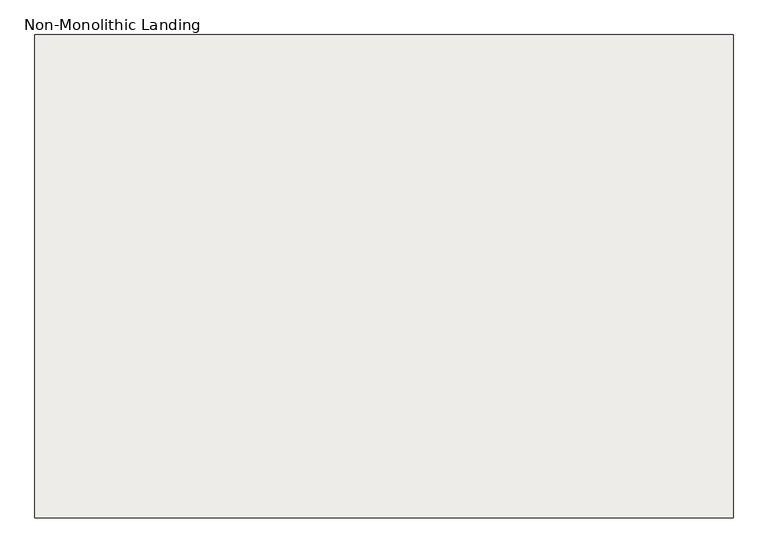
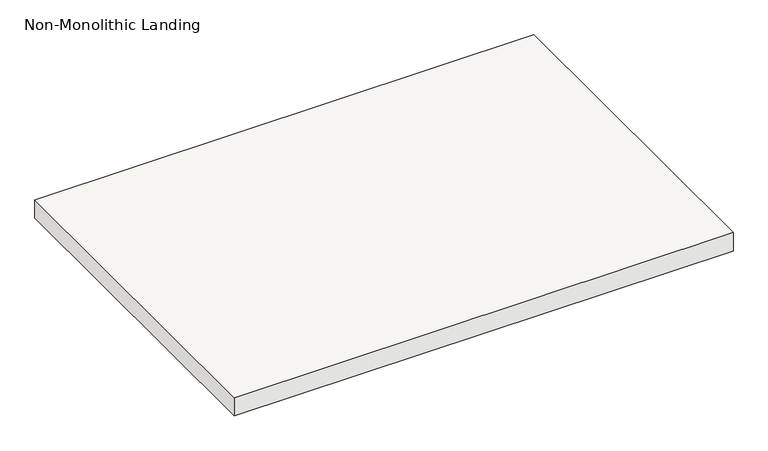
"""IFC4 building model written with IfcOpenShell, lengths in millimetres: slab geometry, Non-Monolithic Landing."""

from ifc_helpers import new_model, si_unit, frame, origin, place, context, project, spatial, polyline, outline, extrude, source, transform, mapped, element, save


def non_monolithic_landing_69d5495d(model_context):
    return source(origin(), model_context, "Body", "SweptSolid", [
        extrude(outline(polyline([(136852.1523809, 33228.3530185), (138172.9523809, 33228.3530185), (138172.9523809, 32313.9530185), (136852.1523809, 32313.9530185), (136852.1523809, 33228.3530185)])), frame((0.0, 0.0, 2126.3428571), z_axis=(0.0, 0.0, 1.0), x_axis=(1.0, 0.0, 0.0)), (0.0, 0.0, 1.0), 50.8),
    ])


if __name__ == "__main__":
    model = new_model("IFC4")
    model_context = context("Model", 3, world=origin())
    ifc_project = project(units=[si_unit("LENGTHUNIT", "METRE", prefix="MILLI")], contexts=[model_context])
    site = spatial("IfcSite", under=ifc_project)
    building = spatial("IfcBuilding", under=site)
    placement = place(None, origin())
    non_monolithic_landing_shape = non_monolithic_landing_69d5495d(model_context)
    element("IfcSlab", 1, ObjectType="Non-Monolithic Landing", at=placement, inside=building, context=model_context, shape_type="MappedRepresentation", body=[
        mapped(non_monolithic_landing_shape, transform((0.0, 0.0, 0.0), x_axis=(1.0, 0.0, 0.0), y_axis=(0.0, 1.0, 0.0), z_axis=(0.0, 0.0, 1.0))),
    ])
    save(model, "model.ifc")
